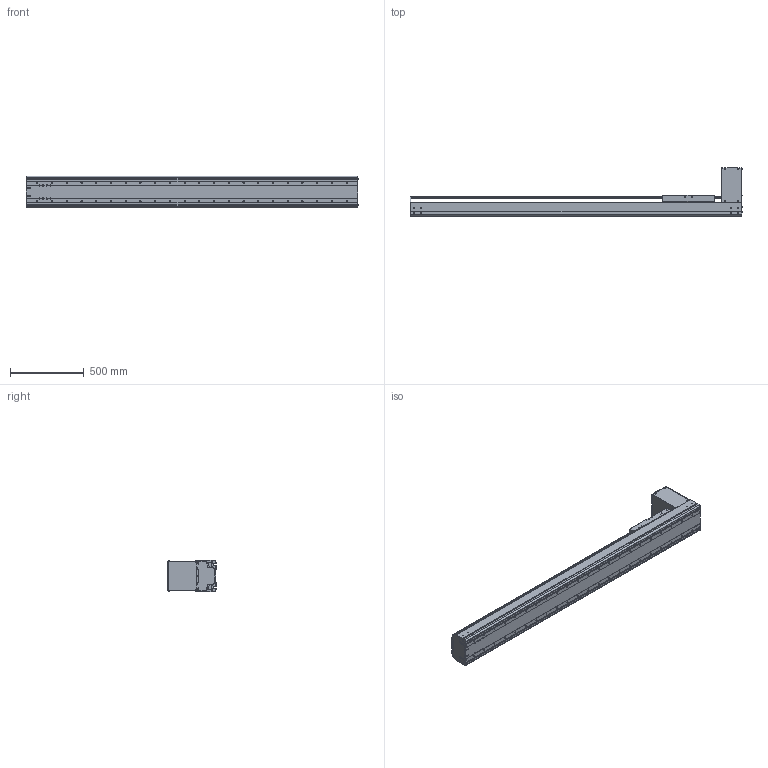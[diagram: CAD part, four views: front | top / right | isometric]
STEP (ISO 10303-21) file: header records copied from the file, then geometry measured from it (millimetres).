
FILE_DESCRIPTION((''),'2;1');
FILE_NAME('BE60J-BT-L19N-G5_IGS_PRT','2017-06-18T',(' '),(''),'PRO/ENGINEER BY PARAMETRIC TECHNOLOGY CORPORATION, 2015030','PRO/ENGINEER BY PARAMETRIC TECHNOLOGY CORPORATION, 2015030','');
FILE_SCHEMA(('CONFIG_CONTROL_DESIGN'));
Products named in the file (1): BE60J-BT-L19N-G5_IGS_PRT
Bounding box: 2254.4 x 327.5 x 214 mm (x, y, z)
Volume: 16451712.4 mm3; surface area: 4971390.7 mm2
Topology: 1 solids, 297 shells, 2302 faces, 6501 edges, 4352 vertices
Faces by surface type: cylinder 1124, plane 850, cone 232, sphere 48, torus 48
Entity records: 76832 total; most frequent: CARTESIAN_POINT 17648, DIRECTION 12377, ORIENTED_EDGE 11592, EDGE_CURVE 6306, AXIS2_PLACEMENT_3D 4691, VERTEX_POINT 4328, VECTOR 2995, LINE 2995
